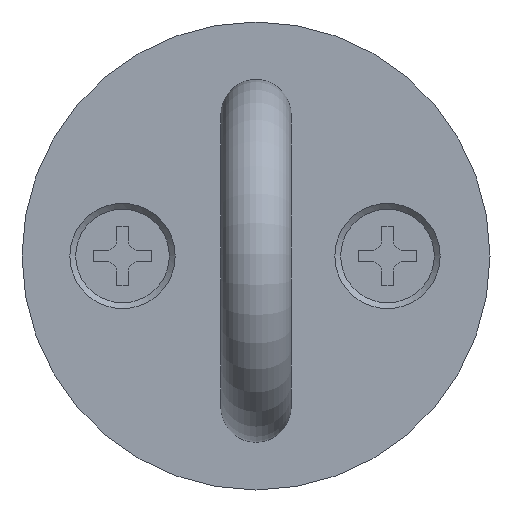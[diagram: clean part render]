
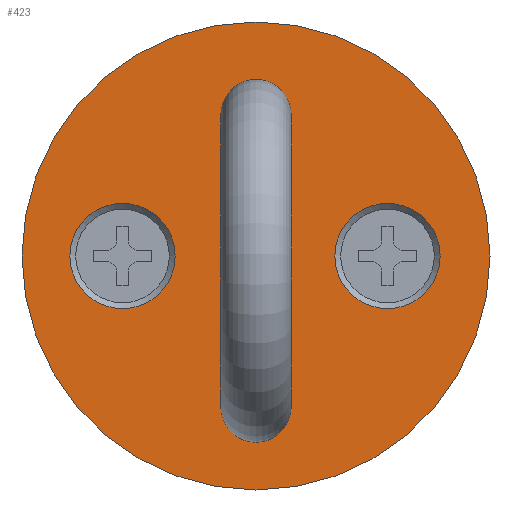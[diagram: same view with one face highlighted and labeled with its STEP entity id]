
A CAD part, left-side view. The second image highlights one B-rep face of the part: STEP entity #423.
In plain terms, the highlighted planar face has unit normal (-1, 0, 0) as drawn and (0, 0, 1) by its records, which use the part's own axes.
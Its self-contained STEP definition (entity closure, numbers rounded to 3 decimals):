
#423=ADVANCED_FACE('',(#792,#793,#794,#795,#796),#797,.T.);
#792=FACE_BOUND('',#1142,.T.);
#793=FACE_BOUND('',#1143,.T.);
#794=FACE_BOUND('',#1144,.T.);
#795=FACE_BOUND('',#1145,.T.);
#796=FACE_OUTER_BOUND('',#1146,.T.);
#797=PLANE('',#1147);
#1142=EDGE_LOOP('',(#2009));
#1143=EDGE_LOOP('',(#2010));
#1144=EDGE_LOOP('',(#2011));
#1145=EDGE_LOOP('',(#2012));
#1146=EDGE_LOOP('',(#2013));
#1147=AXIS2_PLACEMENT_3D('',#2014,#2015,#2016);
#2009=ORIENTED_EDGE('',*,*,#2241,.T.);
#2010=ORIENTED_EDGE('',*,*,#2361,.T.);
#2011=ORIENTED_EDGE('',*,*,#2483,.F.);
#2012=ORIENTED_EDGE('',*,*,#2456,.F.);
#2013=ORIENTED_EDGE('',*,*,#2402,.T.);
#2014=CARTESIAN_POINT('',(20.0,20.0,7.5));
#2015=DIRECTION('',(0.0,0.0,1.0));
#2016=DIRECTION('',(1.0,0.0,0.0));
#2241=EDGE_CURVE('',#2682,#2682,#2683,.T.);
#2361=EDGE_CURVE('',#2876,#2876,#2877,.T.);
#2402=EDGE_CURVE('',#2932,#2932,#2933,.T.);
#2456=EDGE_CURVE('',#2997,#2997,#2998,.T.);
#2483=EDGE_CURVE('',#3026,#3026,#3027,.T.);
#2682=VERTEX_POINT('',#3300);
#2683=CIRCLE('',#3301,3.0);
#2876=VERTEX_POINT('',#3572);
#2877=CIRCLE('',#3573,3.0);
#2932=VERTEX_POINT('',#3649);
#2933=CIRCLE('',#3650,20.0);
#2997=VERTEX_POINT('',#3739);
#2998=CIRCLE('',#3740,4.5);
#3026=VERTEX_POINT('',#3778);
#3027=CIRCLE('',#3779,4.5);
#3300=CARTESIAN_POINT('',(29.086,20.0,7.5));
#3301=AXIS2_PLACEMENT_3D('',#3918,#3919,#3920);
#3572=CARTESIAN_POINT('',(4.086,20.0,7.5));
#3573=AXIS2_PLACEMENT_3D('',#4081,#4082,#4083);
#3649=CARTESIAN_POINT('',(40.0,20.0,7.5));
#3650=AXIS2_PLACEMENT_3D('',#4123,#4124,#4125);
#3739=CARTESIAN_POINT('',(20.0,35.91,7.5));
#3740=AXIS2_PLACEMENT_3D('',#4190,#4191,#4192);
#3778=CARTESIAN_POINT('',(20.0,13.261,7.5));
#3779=AXIS2_PLACEMENT_3D('',#4212,#4213,#4214);
#3918=CARTESIAN_POINT('',(32.086,20.0,7.5));
#3919=DIRECTION('',(0.0,0.0,-1.0));
#3920=DIRECTION('',(-1.0,0.0,0.0));
#4081=CARTESIAN_POINT('',(7.086,20.0,7.5));
#4082=DIRECTION('',(0.0,0.0,-1.0));
#4083=DIRECTION('',(-1.0,0.0,0.0));
#4123=CARTESIAN_POINT('',(20.0,20.0,7.5));
#4124=DIRECTION('',(0.0,0.0,1.0));
#4125=DIRECTION('',(1.0,0.0,0.0));
#4190=CARTESIAN_POINT('',(20.0,31.41,7.5));
#4191=DIRECTION('',(0.0,0.,1.0));
#4192=DIRECTION('',(0.0,1.0,0.));
#4212=CARTESIAN_POINT('',(20.0,8.761,7.5));
#4213=DIRECTION('',(0.0,0.,1.0));
#4214=DIRECTION('',(0.0,1.0,0.));
